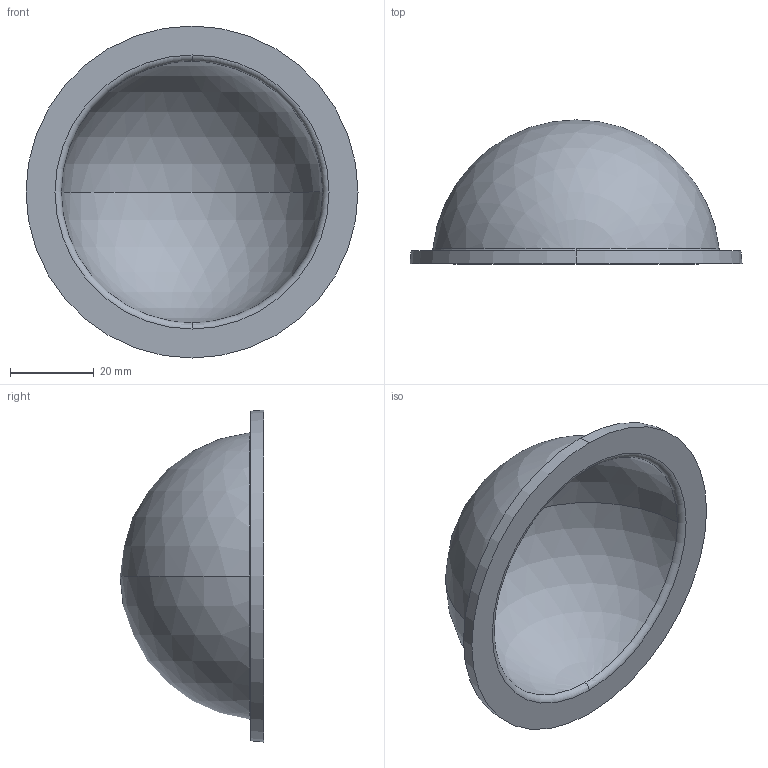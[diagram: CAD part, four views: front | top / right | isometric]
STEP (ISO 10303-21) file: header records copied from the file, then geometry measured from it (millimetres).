
FILE_DESCRIPTION (( 'STEP AP214' ), '1' );
FILE_NAME ('WTE3-P-DOME-R1.STEP', '2018-10-16T22:51:33', ( '' ), ( '' ), 'SwSTEP 2.0', 'SolidWorks 2016', '' );
FILE_SCHEMA (( 'AUTOMOTIVE_DESIGN' ));
Length unit declared in the file: millimetre
Products named in the file (1): WTE3-P-DOME-R1
Bounding box: 79.25 x 34.35 x 79.25 mm (x, y, z)
Volume: 24621.2 mm3; surface area: 16550.4 mm2
Topology: 1 solids, 1 shells, 12 faces, 26 edges, 18 vertices
Faces by surface type: torus 4, sphere 4, cone 2, plane 2
Entity records: 384 total; most frequent: DIRECTION 76, CARTESIAN_POINT 57, ORIENTED_EDGE 52, AXIS2_PLACEMENT_3D 37, EDGE_CURVE 26, CIRCLE 24, VERTEX_POINT 18, EDGE_LOOP 14
